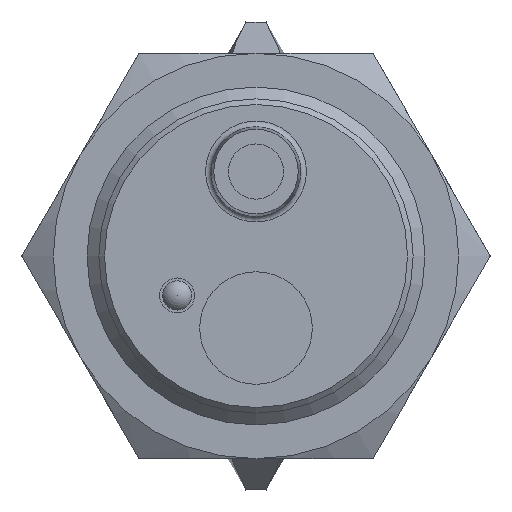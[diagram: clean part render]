
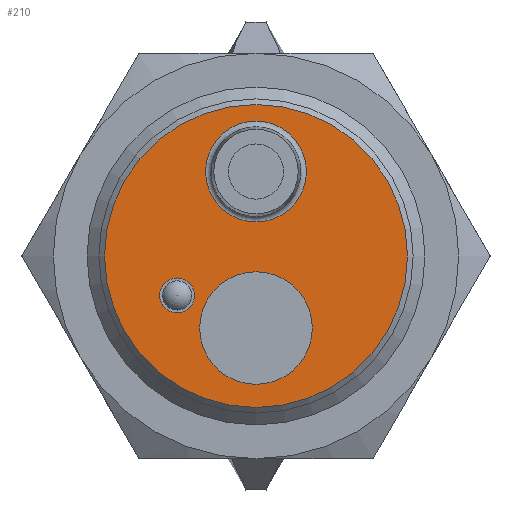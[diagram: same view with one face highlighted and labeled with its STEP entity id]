
A CAD part, left-side view. The second image highlights one B-rep face of the part: STEP entity #210.
In plain terms, the highlighted planar face has unit normal (-1, 0, 0).
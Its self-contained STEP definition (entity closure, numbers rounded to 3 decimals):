
#210 = ADVANCED_FACE( '', ( #294, #295, #296, #297 ), #298, .F. );
#294 = FACE_OUTER_BOUND( '', #412, .T. );
#295 = FACE_BOUND( '', #413, .T. );
#296 = FACE_BOUND( '', #414, .T. );
#297 = FACE_BOUND( '', #415, .T. );
#298 = PLANE( '', #416 );
#412 = EDGE_LOOP( '', ( #682 ) );
#413 = EDGE_LOOP( '', ( #683 ) );
#414 = EDGE_LOOP( '', ( #684 ) );
#415 = EDGE_LOOP( '', ( #685 ) );
#416 = AXIS2_PLACEMENT_3D( '', #686, #687, #688 );
#682 = ORIENTED_EDGE( '', *, *, #839, .T. );
#683 = ORIENTED_EDGE( '', *, *, #840, .F. );
#684 = ORIENTED_EDGE( '', *, *, #841, .T. );
#685 = ORIENTED_EDGE( '', *, *, #842, .T. );
#686 = CARTESIAN_POINT( '', ( -70., 0., -12.25 ) );
#687 = DIRECTION( '', ( 1., 0., 0. ) );
#688 = DIRECTION( '', ( 0., 0., -1. ) );
#839 = EDGE_CURVE( '', #961, #961, #962, .F. );
#840 = EDGE_CURVE( '', #963, #963, #964, .T. );
#841 = EDGE_CURVE( '', #965, #965, #966, .T. );
#842 = EDGE_CURVE( '', #967, #967, #968, .T. );
#961 = VERTEX_POINT( '', #1281 );
#962 = CIRCLE( '', #1282, 13.45 );
#963 = VERTEX_POINT( '', #1283 );
#964 = CIRCLE( '', #1284, 5. );
#965 = VERTEX_POINT( '', #1285 );
#966 = CIRCLE( '', #1286, 4.481 );
#967 = VERTEX_POINT( '', #1287 );
#968 = CIRCLE( '', #1288, 1.55 );
#1281 = CARTESIAN_POINT( '', ( -70., 0., -13.45 ) );
#1282 = AXIS2_PLACEMENT_3D( '', #1413, #1414, #1415 );
#1283 = CARTESIAN_POINT( '', ( -70., 5., -6.4 ) );
#1284 = AXIS2_PLACEMENT_3D( '', #1416, #1417, #1418 );
#1285 = CARTESIAN_POINT( '', ( -70., 0., 3.019 ) );
#1286 = AXIS2_PLACEMENT_3D( '', #1419, #1420, #1421 );
#1287 = CARTESIAN_POINT( '', ( -70., 8.55, -3.5 ) );
#1288 = AXIS2_PLACEMENT_3D( '', #1422, #1423, #1424 );
#1413 = CARTESIAN_POINT( '', ( -70., 0., 0. ) );
#1414 = DIRECTION( '', ( 1., 0., 0. ) );
#1415 = DIRECTION( '', ( 0., 0., -1. ) );
#1416 = CARTESIAN_POINT( '', ( -70., 0., -6.4 ) );
#1417 = DIRECTION( '', ( -1., 0., 0. ) );
#1418 = DIRECTION( '', ( 0., 1., 0. ) );
#1419 = CARTESIAN_POINT( '', ( -70., 0., 7.5 ) );
#1420 = DIRECTION( '', ( 1., 0., 0. ) );
#1421 = DIRECTION( '', ( 0., 0., -1. ) );
#1422 = CARTESIAN_POINT( '', ( -70., 7., -3.5 ) );
#1423 = DIRECTION( '', ( 1., 0., 0. ) );
#1424 = DIRECTION( '', ( 0., 1., 0. ) );
